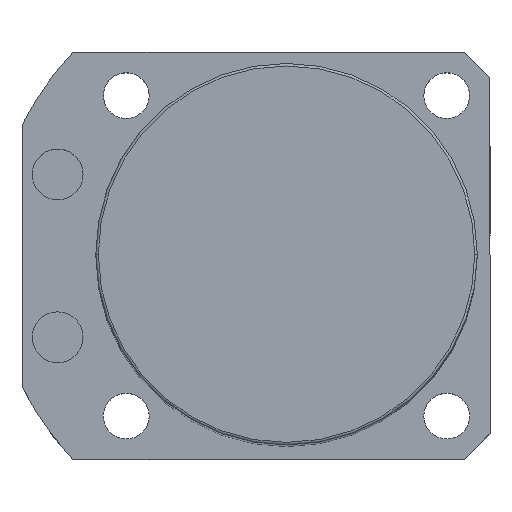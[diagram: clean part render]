
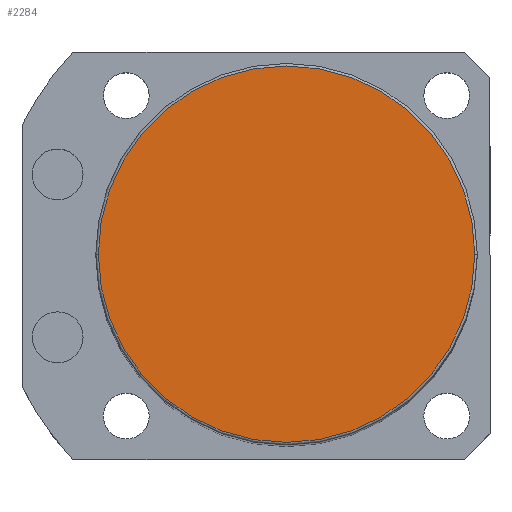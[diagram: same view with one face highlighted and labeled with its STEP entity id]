
A CAD part, top view. The second image highlights one B-rep face of the part: STEP entity #2284.
In plain terms, the highlighted planar face has unit normal (0, 0, 1).
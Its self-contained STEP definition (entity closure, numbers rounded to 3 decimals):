
#126 = EDGE_LOOP ( 'NONE', ( #2942, #5671 ) ) ;
#617 = AXIS2_PLACEMENT_3D ( 'NONE', #846, #1775, #3331 ) ;
#703 = PLANE ( 'NONE',  #3338 ) ;
#846 = CARTESIAN_POINT ( 'NONE',  ( 0., 0., 205.5 ) ) ;
#1277 = CARTESIAN_POINT ( 'NONE',  ( 0., 0., 205.5 ) ) ;
#1516 = CARTESIAN_POINT ( 'NONE',  ( 37., 0., 205.5 ) ) ;
#1644 = FACE_OUTER_BOUND ( 'NONE', #126, .T. ) ;
#1775 = DIRECTION ( 'NONE',  ( 0., 0., 1. ) ) ;
#2069 = CIRCLE ( 'NONE', #617, 37. ) ;
#2284 = ADVANCED_FACE ( 'NONE', ( #1644 ), #703, .T. ) ;
#2324 = DIRECTION ( 'NONE',  ( 1., 0., 0. ) ) ;
#2942 = ORIENTED_EDGE ( 'NONE', *, *, #6493, .T. ) ;
#3331 = DIRECTION ( 'NONE',  ( 1., 0., 0. ) ) ;
#3338 = AXIS2_PLACEMENT_3D ( 'NONE', #5461, #5382, #3879 ) ;
#3879 = DIRECTION ( 'NONE',  ( 1., 0., 0. ) ) ;
#4305 = EDGE_CURVE ( 'NONE', #4940, #4567, #4554, .T. ) ;
#4554 = CIRCLE ( 'NONE', #5627, 37. ) ;
#4567 = VERTEX_POINT ( 'NONE', #1516 ) ;
#4940 = VERTEX_POINT ( 'NONE', #5617 ) ;
#5382 = DIRECTION ( 'NONE',  ( 0., 0., 1. ) ) ;
#5399 = DIRECTION ( 'NONE',  ( 0., 0., 1. ) ) ;
#5461 = CARTESIAN_POINT ( 'NONE',  ( 0., 0., 205.5 ) ) ;
#5617 = CARTESIAN_POINT ( 'NONE',  ( -37., 0., 205.5 ) ) ;
#5627 = AXIS2_PLACEMENT_3D ( 'NONE', #1277, #5399, #2324 ) ;
#5671 = ORIENTED_EDGE ( 'NONE', *, *, #4305, .T. ) ;
#6493 = EDGE_CURVE ( 'NONE', #4567, #4940, #2069, .T. ) ;
